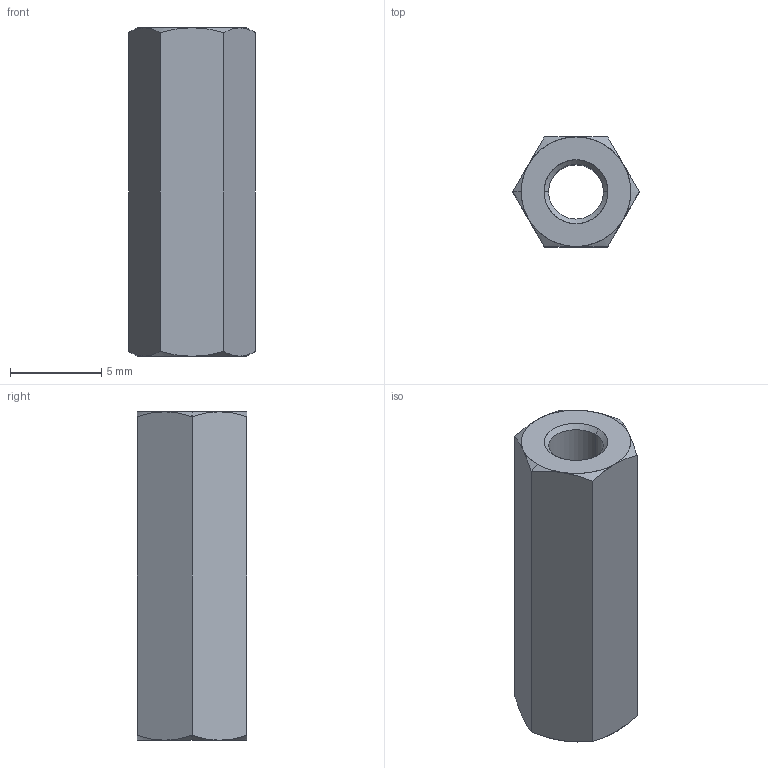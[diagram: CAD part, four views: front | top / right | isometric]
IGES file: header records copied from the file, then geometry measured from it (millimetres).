
Start section: SolidWorks IGES file using analytic representation for surfaces
Global section: file name: C:\Users\ianosborn\Desktop\N0503.NP_v2\N0503.NP_v2_20250227_IGES\N0503.030-018-NP.igs; native system: SolidWorks 2019; preprocessor: SolidWorks 2019; author: IanOsborn; date: 250227.144121; units: millimetre
Bounding box: 6.93 x 6 x 18 mm (x, y, z)
Surface area: 586.5 mm2 (no closed solid volume)
Topology: 0 solids, 0 shells, 28 faces, 286 edges, 286 vertices
Faces by surface type: revolution 20, bspline 8
